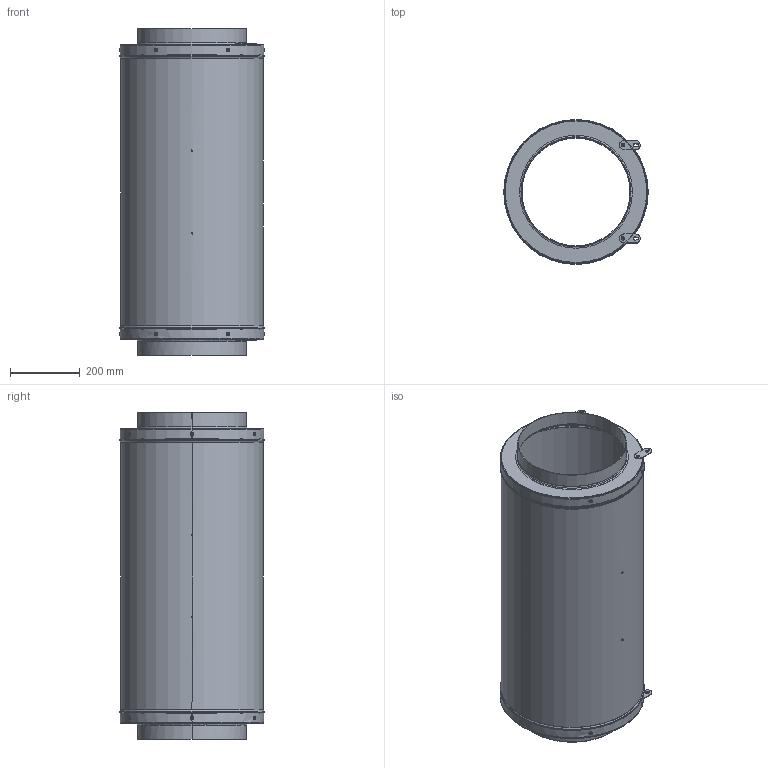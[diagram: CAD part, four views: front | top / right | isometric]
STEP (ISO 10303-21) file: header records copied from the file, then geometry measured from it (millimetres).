
FILE_DESCRIPTION((''),'2;1');
FILE_NAME('315000_ASM','2022-11-23T21:13:35',('Administrator'),(''),'CREO PARAMETRIC BY PTC INC, 2019010','CREO PARAMETRIC BY PTC INC, 2019010','');
FILE_SCHEMA(('CONFIG_CONTROL_DESIGN'));
Length unit declared in the file: millimetre
Products named in the file (25): ADMI139000EDFUT8_24; ADMI139000EDFUT8_27; ADMI139000EDFUT8_28; ADMI139000EDFUT8_31; ADMI139000EDFUT8_34; ADMI139000EDFUT8_2; ADMI139000EDFUT8_3; ADMI139000EDFUT8_8; ADMI139000EDFUT8_13; ADMI139000EDFUT8_23; ADMI139000EDFUT8_25; ADMI139000EDFUT8_26; ADMI139000EDFUT8_29; ADMI139000EDFUT8_30; ADMI139000EDFUT8_32; ADMI139000EDFUT8_33; ADMI139000EDFUT8_35; ADMI139000EDFUT8_36; ADMI139000EDFUT8_37; ADMI139000EDFUT8_38; ADMI139000EDFUT8_39; ADMI139000EDFUT8_40; ADMI139000EDFUT8_41; ADMI139000EDFUT8_ASM; 315000_ASM
Assembly tree (24 placements, depth 3):
  315000_ASM
    ADMI139000EDFUT8_ASM
      ADMI139000EDFUT8_24
      ADMI139000EDFUT8_27
      ADMI139000EDFUT8_28
      ADMI139000EDFUT8_31
      ADMI139000EDFUT8_34
      ADMI139000EDFUT8_2
      ADMI139000EDFUT8_3
      ADMI139000EDFUT8_8
      ADMI139000EDFUT8_13
      ADMI139000EDFUT8_23
      ADMI139000EDFUT8_25
      ADMI139000EDFUT8_26
      ADMI139000EDFUT8_29
      ADMI139000EDFUT8_30
      ADMI139000EDFUT8_32
      ADMI139000EDFUT8_33
      ADMI139000EDFUT8_35
      ADMI139000EDFUT8_36
      ADMI139000EDFUT8_37
      ADMI139000EDFUT8_38
      ADMI139000EDFUT8_39
      ADMI139000EDFUT8_40
      ADMI139000EDFUT8_41
Bounding box: 418.8 x 415.4 x 940 mm (x, y, z)
Volume: 1426706.5 mm3; surface area: 2741027.8 mm2
Topology: 23 solids, 23 shells, 502 faces, 1303 edges, 839 vertices
Faces by surface type: cylinder 168, torus 152, plane 134, bspline 32, cone 16
Entity records: 18181 total; most frequent: CARTESIAN_POINT 4993, DIRECTION 2904, ORIENTED_EDGE 2606, EDGE_CURVE 1303, AXIS2_PLACEMENT_3D 1268, VERTEX_POINT 839, CIRCLE 726, EDGE_LOOP 592
